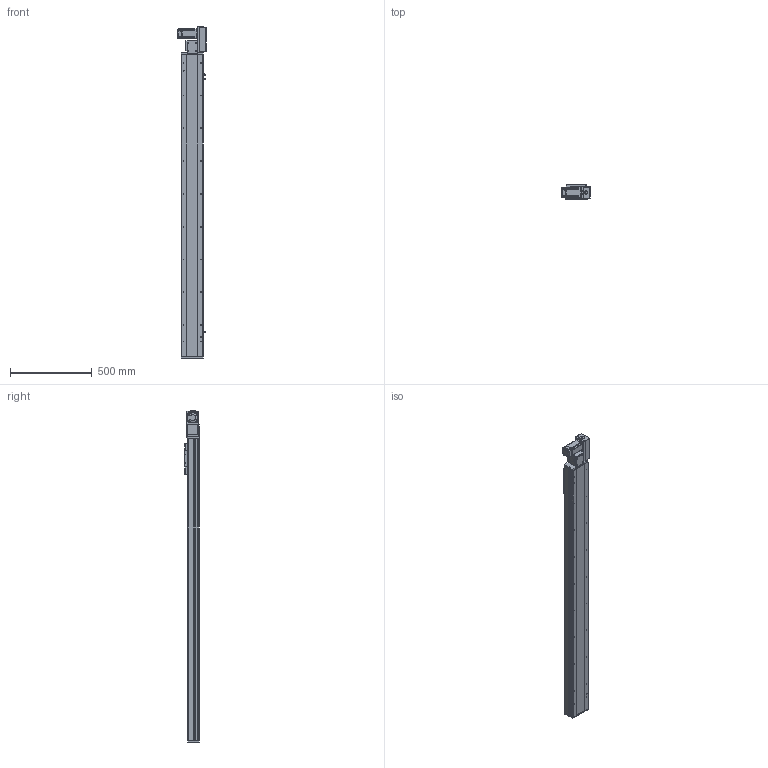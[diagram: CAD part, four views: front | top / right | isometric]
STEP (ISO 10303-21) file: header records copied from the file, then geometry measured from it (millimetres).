
FILE_DESCRIPTION (( 'STEP AP214' ), '1' );
FILE_NAME ('TPE14-L40-1550-R-T40-C4.STEP', '2023-04-13T05:57:12', ( '' ), ( '' ), 'SwSTEP 2.0', 'SolidWorks 2020', '' );
FILE_SCHEMA (( 'AUTOMOTIVE_DESIGN' ));
Length unit declared in the file: millimetre
Products named in the file (10): 葩璃 侂狟400W^TPE14-L40-R-T40-C4; hexagon head bolts-full thread gb_GB_FASTENER_BOLT_STBAB A M5X16-N; 葩璃 TPT14-L-009 萇儂啣^TPE14-L40-R-T40-C4_400W; 葩璃 TPE14-L-001 菁釱MZ-135-01^TPE14-L40-R-T40-C4; 葩璃 TPE14-L-002 耜裔ZTMZ-135-04^TPE14-L40-R-T40-C4; 葩璃 詩湍75^TPE14-L40-R-T40-C4; TPE14-L40-1550-R-T40-C4; 葩璃 pm-t65-672^TPE14-L40-R-T40-C4; 葩璃 TPE14 賑雄殤^TPE14-L40-R-T40-C4; 葩璃 TPE14-L-007 々湍釱MZ-169x88^TPE14-L40-R-T40-C4_YCB14
Assembly tree (12 placements, depth 2):
  TPE14-L40-1550-R-T40-C4
    葩璃 TPE14-L-001 菁釱MZ-135-01^TPE14-L40-R-T40-C4
    葩璃 TPE14-L-002 耜裔ZTMZ-135-04^TPE14-L40-R-T40-C4  x2
    葩璃 詩湍75^TPE14-L40-R-T40-C4
    葩璃 TPE14-L-007 々湍釱MZ-169x88^TPE14-L40-R-T40-C4_YCB14
    葩璃 TPT14-L-009 萇儂啣^TPE14-L40-R-T40-C4_400W
    葩璃 TPE14 賑雄殤^TPE14-L40-R-T40-C4
    葩璃 pm-t65-672^TPE14-L40-R-T40-C4  x3
    葩璃 侂狟400W^TPE14-L40-R-T40-C4
    hexagon head bolts-full thread gb_GB_FASTENER_BOLT_STBAB A M5X16-N
Bounding box: 172.5 x 91 x 2025.15 mm (x, y, z)
Volume: 9798775.8 mm3; surface area: 1884471.7 mm2
Topology: 23 solids, 23 shells, 1436 faces, 3727 edges, 2360 vertices
Faces by surface type: plane 823, cylinder 433, cone 146, bspline 34
Entity records: 38351 total; most frequent: CARTESIAN_POINT 7456, DIRECTION 6128, ORIENTED_EDGE 5922, EDGE_CURVE 2961, AXIS2_PLACEMENT_3D 2086, VECTOR 1956, LINE 1956, VERTEX_POINT 1908
